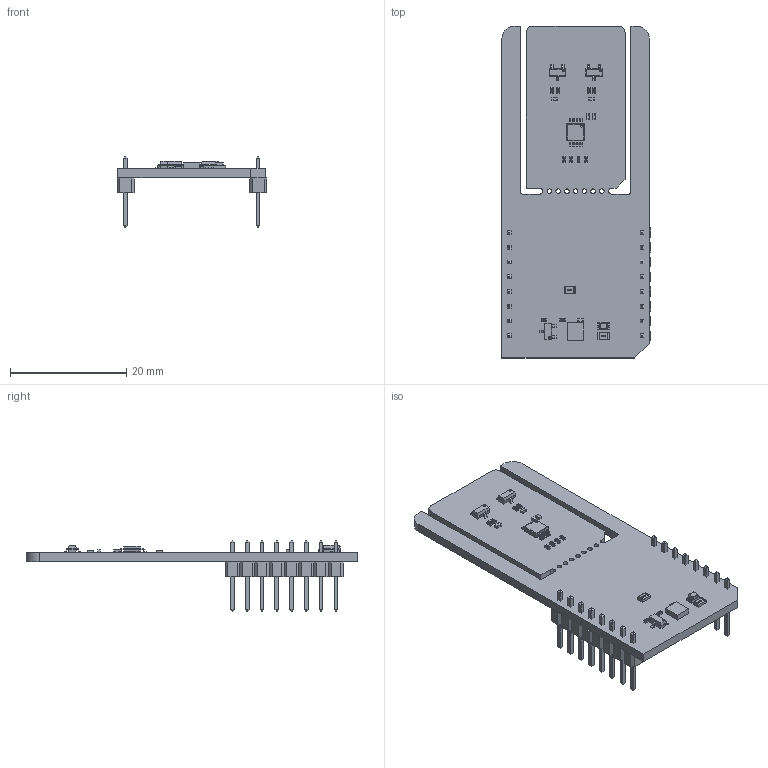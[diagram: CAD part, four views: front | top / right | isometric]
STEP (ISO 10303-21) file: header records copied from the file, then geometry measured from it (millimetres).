
FILE_DESCRIPTION(('Open CASCADE Model'),'2;1');
FILE_NAME('Open CASCADE Shape Model','2026-03-16T16:25:49',('Author'),( 'Open CASCADE'),'Open CASCADE STEP processor 7.5','Open CASCADE 7.5' ,'Unknown');
FILE_SCHEMA(('AUTOMOTIVE_DESIGN { 1 0 10303 214 1 1 1 1 }'));
Length unit declared in the file: millimetre
Products named in the file (41): PCB; Board; Open CASCADE STEP translator 7.5 1.1.1; R3; User Library-R_0402; U2; TPS53015DGS; R6; R7; R8; R9; R11; R12; R5; Q3; SOT23-3; Q2; C4; User Library-SMD CAPACITOR0402; C5; C3; C2; U1; 6233261856; Extruded; Q1; R10; C1; R2; LD1; led_0805_green; R1; User Library-R_0805; MBD1; Header 1x8; Free-Models; 1240637040; User_Library-PinHeaderX5-1_PinHeaderX5_Body_1; User_Library-PinHeaderX5-1_PinHeaderX5_Pins_1; JP1
Assembly tree (58 placements, depth 7):
  PCB
    Board
      Open CASCADE STEP translator 7.5 1.1.1
    R3
      User Library-R_0402
    U2
      TPS53015DGS
    R6
      User Library-R_0402
    R7
      User Library-R_0402
    R8
      User Library-R_0402
    R9
      User Library-R_0402
    R11
      User Library-R_0402
    R12
      User Library-R_0402
    R5
      User Library-R_0402
    Q3
      SOT23-3
    Q2
      SOT23-3
    C4
      User Library-SMD CAPACITOR0402
    C5
      User Library-SMD CAPACITOR0402
    C3
      User Library-SMD CAPACITOR0402
    C2
      User Library-SMD CAPACITOR0402
    U1
      6233261856
        Extruded
    Q1
      SOT23-3
    R10
      User Library-R_0402
    C1
      User Library-SMD CAPACITOR0402
    R2
      User Library-R_0402
    LD1
      led_0805_green
    R1
      User Library-R_0805
    MBD1
      Header 1x8  x2
        PCB
          Free-Models
            1240637040  x2
              User_Library-PinHeaderX5-1_PinHeaderX5_Body_1
              User_Library-PinHeaderX5-1_PinHeaderX5_Pins_1
    JP1
      User Library-R_0805
Bounding box: 25.78 x 57.15 x 12.19 mm (x, y, z)
Volume: 2692.1 mm3; surface area: 4766.1 mm2
Topology: 79 solids, 79 shells, 2207 faces, 5493 edges, 3502 vertices
Faces by surface type: plane 1599, bspline 352, cylinder 206, sphere 50
Full cylindrical faces by diameter (mm): 0.8 x7
Entity records: 27525 total; most frequent: CARTESIAN_POINT 8026, ORIENTED_EDGE 3352, DIRECTION 3083, EDGE_CURVE 1676, LINE 1305, VECTOR 1305, VERTEX_POINT 1072, AXIS2_PLACEMENT_3D 889
